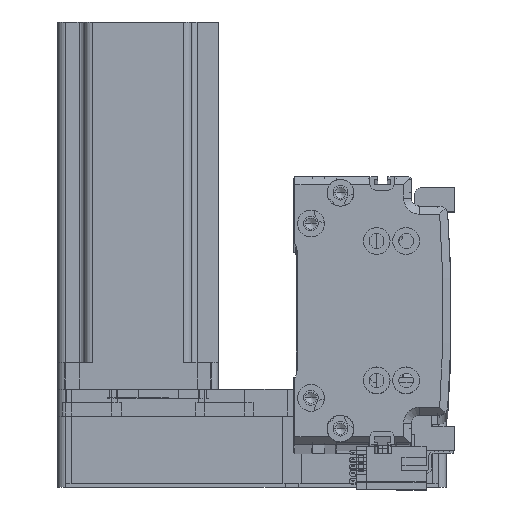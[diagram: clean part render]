
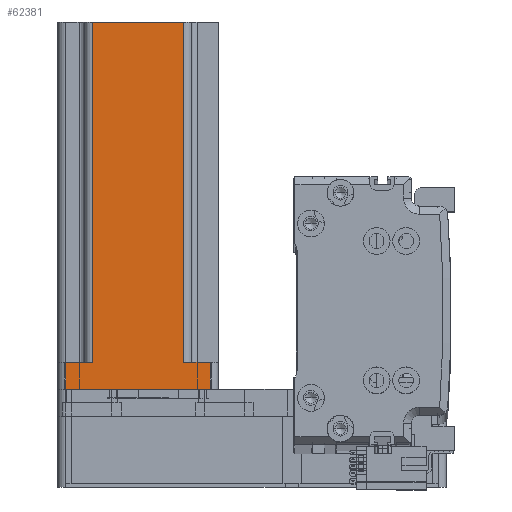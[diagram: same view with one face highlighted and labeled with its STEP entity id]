
A CAD part, top view. The second image highlights one B-rep face of the part: STEP entity #62381.
In plain terms, the highlighted planar face has unit normal (0, 0, 1) as drawn and (0, 1, 0) by its records, which use the part's own axes.
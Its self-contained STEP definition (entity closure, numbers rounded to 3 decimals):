
#1943 = VERTEX_POINT ( 'NONE', #50019 ) ;
#2475 = DIRECTION ( 'NONE',  ( -1., 0., 0. ) ) ;
#2586 = CARTESIAN_POINT ( 'NONE',  ( 27., 30., 10. ) ) ;
#3332 = EDGE_CURVE ( 'NONE', #53821, #10908, #58268, .T. ) ;
#6831 = CARTESIAN_POINT ( 'NONE',  ( 17., 30., 137. ) ) ;
#7578 = LINE ( 'NONE', #61332, #32548 ) ;
#8280 = LINE ( 'NONE', #29288, #33262 ) ;
#10342 = DIRECTION ( 'NONE',  ( -1., 0., 0. ) ) ;
#10575 = ORIENTED_EDGE ( 'NONE', *, *, #11276, .T. ) ;
#10866 = ORIENTED_EDGE ( 'NONE', *, *, #24964, .F. ) ;
#10908 = VERTEX_POINT ( 'NONE', #53188 ) ;
#11276 = EDGE_CURVE ( 'NONE', #27856, #23183, #61851, .T. ) ;
#12626 = CARTESIAN_POINT ( 'NONE',  ( 27., 30., 137. ) ) ;
#13015 = VECTOR ( 'NONE', #41932, 1000. ) ;
#13302 = CARTESIAN_POINT ( 'NONE',  ( 27., 30., 0. ) ) ;
#13316 = ORIENTED_EDGE ( 'NONE', *, *, #3332, .T. ) ;
#14499 = CARTESIAN_POINT ( 'NONE',  ( -17., 30., 10. ) ) ;
#16612 = CARTESIAN_POINT ( 'NONE',  ( -27., 30., 0. ) ) ;
#16967 = LINE ( 'NONE', #18190, #55152 ) ;
#17162 = AXIS2_PLACEMENT_3D ( 'NONE', #57358, #27517, #62405 ) ;
#18190 = CARTESIAN_POINT ( 'NONE',  ( -27., 30., 137. ) ) ;
#23183 = VERTEX_POINT ( 'NONE', #13302 ) ;
#24964 = EDGE_CURVE ( 'NONE', #27856, #46099, #7578, .T. ) ;
#26317 = LINE ( 'NONE', #6831, #13015 ) ;
#26876 = CARTESIAN_POINT ( 'NONE',  ( -27., 30., 10. ) ) ;
#27051 = EDGE_CURVE ( 'NONE', #59411, #53821, #8280, .T. ) ;
#27517 = DIRECTION ( 'NONE',  ( 0., -1., 0. ) ) ;
#27856 = VERTEX_POINT ( 'NONE', #2586 ) ;
#28005 = LINE ( 'NONE', #62458, #54496 ) ;
#28264 = ORIENTED_EDGE ( 'NONE', *, *, #27051, .T. ) ;
#29282 = EDGE_CURVE ( 'NONE', #23183, #41077, #47596, .T. ) ;
#29288 = CARTESIAN_POINT ( 'NONE',  ( -20., 30., 10. ) ) ;
#32296 = PLANE ( 'NONE',  #17162 ) ;
#32548 = VECTOR ( 'NONE', #56305, 1000. ) ;
#33217 = DIRECTION ( 'NONE',  ( 0., 0., 1. ) ) ;
#33262 = VECTOR ( 'NONE', #34295, 1000. ) ;
#34295 = DIRECTION ( 'NONE',  ( 1., 0., 0. ) ) ;
#34353 = VECTOR ( 'NONE', #10342, 1000. ) ;
#36458 = DIRECTION ( 'NONE',  ( 0., 0., 1. ) ) ;
#37076 = ORIENTED_EDGE ( 'NONE', *, *, #29282, .T. ) ;
#40212 = CARTESIAN_POINT ( 'NONE',  ( 30., 30., 0. ) ) ;
#41077 = VERTEX_POINT ( 'NONE', #16612 ) ;
#41458 = CARTESIAN_POINT ( 'NONE',  ( -17., 30., 137. ) ) ;
#41932 = DIRECTION ( 'NONE',  ( 0., 0., -1. ) ) ;
#42511 = DIRECTION ( 'NONE',  ( 0., 0., -1. ) ) ;
#42657 = CARTESIAN_POINT ( 'NONE',  ( 17., 30., 10. ) ) ;
#43440 = VECTOR ( 'NONE', #36458, 1000. ) ;
#46099 = VERTEX_POINT ( 'NONE', #42657 ) ;
#47234 = EDGE_LOOP ( 'NONE', ( #28264, #13316, #61877, #51725, #10866, #10575, #37076, #61072 ) ) ;
#47596 = LINE ( 'NONE', #40212, #34353 ) ;
#48601 = EDGE_CURVE ( 'NONE', #1943, #46099, #26317, .T. ) ;
#50019 = CARTESIAN_POINT ( 'NONE',  ( 17., 30., 137. ) ) ;
#50493 = EDGE_CURVE ( 'NONE', #1943, #10908, #28005, .T. ) ;
#51725 = ORIENTED_EDGE ( 'NONE', *, *, #48601, .T. ) ;
#52682 = FACE_OUTER_BOUND ( 'NONE', #47234, .T. ) ;
#53188 = CARTESIAN_POINT ( 'NONE',  ( -17., 30., 137. ) ) ;
#53821 = VERTEX_POINT ( 'NONE', #14499 ) ;
#54496 = VECTOR ( 'NONE', #2475, 1000. ) ;
#55152 = VECTOR ( 'NONE', #33217, 1000. ) ;
#56305 = DIRECTION ( 'NONE',  ( -1., 0., 0. ) ) ;
#57358 = CARTESIAN_POINT ( 'NONE',  ( 30., 30., 137. ) ) ;
#58268 = LINE ( 'NONE', #41458, #43440 ) ;
#59411 = VERTEX_POINT ( 'NONE', #26876 ) ;
#60259 = VECTOR ( 'NONE', #42511, 1000. ) ;
#61072 = ORIENTED_EDGE ( 'NONE', *, *, #62037, .T. ) ;
#61332 = CARTESIAN_POINT ( 'NONE',  ( 20., 30., 10. ) ) ;
#61851 = LINE ( 'NONE', #12626, #60259 ) ;
#61877 = ORIENTED_EDGE ( 'NONE', *, *, #50493, .F. ) ;
#62037 = EDGE_CURVE ( 'NONE', #41077, #59411, #16967, .T. ) ;
#62381 = ADVANCED_FACE ( 'NONE', ( #52682 ), #32296, .F. ) ;
#62405 = DIRECTION ( 'NONE',  ( 1., 0., 0. ) ) ;
#62458 = CARTESIAN_POINT ( 'NONE',  ( 30., 30., 137. ) ) ;
